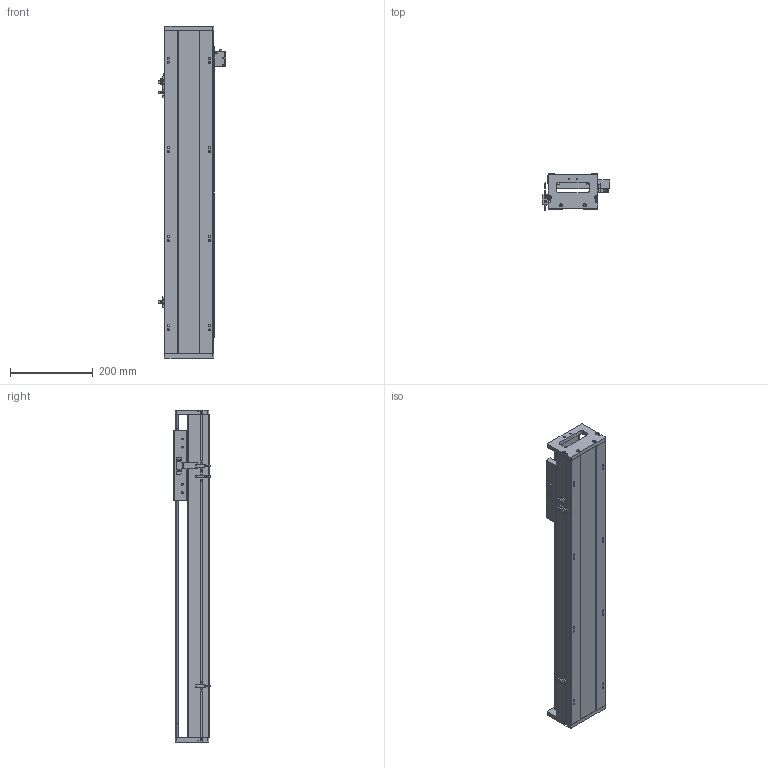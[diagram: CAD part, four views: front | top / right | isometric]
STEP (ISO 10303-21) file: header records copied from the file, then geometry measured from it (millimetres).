
FILE_DESCRIPTION (( 'STEP AP203' ), '1' );
FILE_NAME ('SKR12S-C1-S534（简）.STEP', '2022-09-26T02:42:25', ( '' ), ( '' ), 'SwSTEP 2.0', 'SolidWorks 2018', '' );
FILE_SCHEMA (( 'CONFIG_CONTROL_DESIGN' ));
Length unit declared in the file: millimetre
Products named in the file (8): SKR12S-C1-S534（简）; SIKO棠掑; EE-SX672; 棠掑假蚾輸; SKR12耜啣; SKR12菁釱-C1-S534(潠); SKR12滑台-170L（简）; 覜茼え
Assembly tree (10 placements, depth 2):
  SKR12S-C1-S534（简）
    SKR12菁釱-C1-S534(潠)
    SKR12滑台-170L（简）
    SKR12耜啣  x2
    棠掑假蚾輸
    SIKO棠掑
    覜茼え
    EE-SX672  x3
Bounding box: 162.7 x 87.3 x 804 mm (x, y, z)
Volume: 3767841.1 mm3; surface area: 630159.7 mm2
Topology: 11 solids, 11 shells, 934 faces, 2473 edges, 1565 vertices
Faces by surface type: cylinder 415, plane 393, cone 126
Entity records: 24937 total; most frequent: CARTESIAN_POINT 4775, DIRECTION 4179, ORIENTED_EDGE 3926, EDGE_CURVE 1963, AXIS2_PLACEMENT_3D 1537, VERTEX_POINT 1269, LINE 1105, VECTOR 1105
